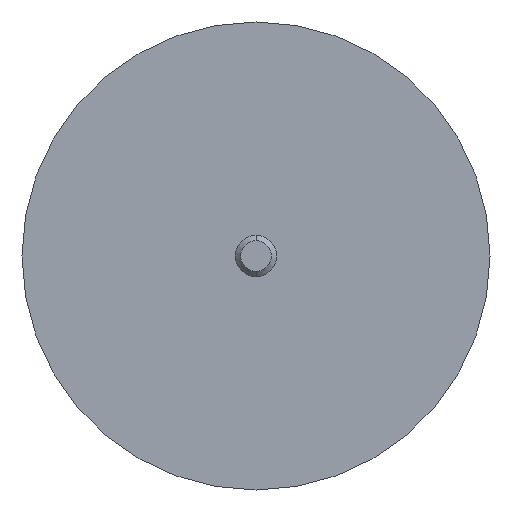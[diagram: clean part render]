
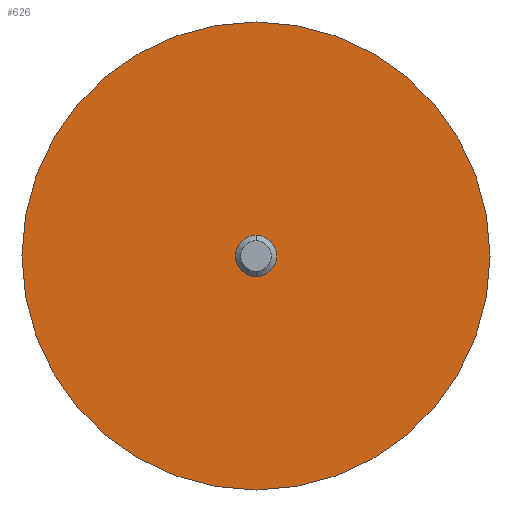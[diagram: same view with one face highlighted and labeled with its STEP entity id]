
A CAD part, front view. The second image highlights one B-rep face of the part: STEP entity #626.
In plain terms, the highlighted planar face has unit normal (0, -1, 0).
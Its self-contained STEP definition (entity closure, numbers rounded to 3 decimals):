
#49 = DIRECTION ( 'NONE',  ( 0., 0., 1. ) ) ;
#70 = CARTESIAN_POINT ( 'NONE',  ( 0., 0., -6. ) ) ;
#101 = VERTEX_POINT ( 'NONE', #853 ) ;
#117 = CARTESIAN_POINT ( 'NONE',  ( 0., 0., -68. ) ) ;
#143 = ORIENTED_EDGE ( 'NONE', *, *, #360, .F. ) ;
#179 = CARTESIAN_POINT ( 'NONE',  ( 0., 0., 0. ) ) ;
#204 = CIRCLE ( 'NONE', #679, 6. ) ;
#206 = ORIENTED_EDGE ( 'NONE', *, *, #691, .T. ) ;
#226 = EDGE_LOOP ( 'NONE', ( #143, #249 ) ) ;
#234 = EDGE_CURVE ( 'NONE', #454, #101, #204, .T. ) ;
#249 = ORIENTED_EDGE ( 'NONE', *, *, #234, .F. ) ;
#255 = DIRECTION ( 'NONE',  ( 0., -1., 0. ) ) ;
#256 = AXIS2_PLACEMENT_3D ( 'NONE', #424, #255, #555 ) ;
#258 = DIRECTION ( 'NONE',  ( 0., -1., 0. ) ) ;
#297 = EDGE_LOOP ( 'NONE', ( #358, #206 ) ) ;
#302 = VERTEX_POINT ( 'NONE', #117 ) ;
#312 = CIRCLE ( 'NONE', #256, 68. ) ;
#335 = CARTESIAN_POINT ( 'NONE',  ( 0., 0., 0. ) ) ;
#356 = DIRECTION ( 'NONE',  ( 0., -1., 0. ) ) ;
#358 = ORIENTED_EDGE ( 'NONE', *, *, #625, .T. ) ;
#360 = EDGE_CURVE ( 'NONE', #101, #454, #960, .T. ) ;
#414 = PLANE ( 'NONE',  #615 ) ;
#424 = CARTESIAN_POINT ( 'NONE',  ( 0., 0., 0. ) ) ;
#441 = AXIS2_PLACEMENT_3D ( 'NONE', #722, #356, #49 ) ;
#454 = VERTEX_POINT ( 'NONE', #70 ) ;
#481 = CARTESIAN_POINT ( 'NONE',  ( 0., 0., 0. ) ) ;
#522 = FACE_OUTER_BOUND ( 'NONE', #297, .T. ) ;
#555 = DIRECTION ( 'NONE',  ( 0., 0., -1. ) ) ;
#563 = DIRECTION ( 'NONE',  ( 0., 0., -1. ) ) ;
#615 = AXIS2_PLACEMENT_3D ( 'NONE', #481, #940, #947 ) ;
#625 = EDGE_CURVE ( 'NONE', #302, #782, #312, .T. ) ;
#626 = ADVANCED_FACE ( 'NONE', ( #773, #522 ), #414, .F. ) ;
#679 = AXIS2_PLACEMENT_3D ( 'NONE', #179, #258, #951 ) ;
#691 = EDGE_CURVE ( 'NONE', #782, #302, #868, .T. ) ;
#722 = CARTESIAN_POINT ( 'NONE',  ( 0., 0., 0. ) ) ;
#773 = FACE_BOUND ( 'NONE', #226, .T. ) ;
#782 = VERTEX_POINT ( 'NONE', #962 ) ;
#797 = DIRECTION ( 'NONE',  ( 0., -1., 0. ) ) ;
#853 = CARTESIAN_POINT ( 'NONE',  ( 0., 0., 6. ) ) ;
#868 = CIRCLE ( 'NONE', #875, 68. ) ;
#875 = AXIS2_PLACEMENT_3D ( 'NONE', #335, #797, #563 ) ;
#940 = DIRECTION ( 'NONE',  ( 0., 1., 0. ) ) ;
#947 = DIRECTION ( 'NONE',  ( 0., 0., 1. ) ) ;
#951 = DIRECTION ( 'NONE',  ( 0., 0., 1. ) ) ;
#960 = CIRCLE ( 'NONE', #441, 6. ) ;
#962 = CARTESIAN_POINT ( 'NONE',  ( 0., 0., 68. ) ) ;
